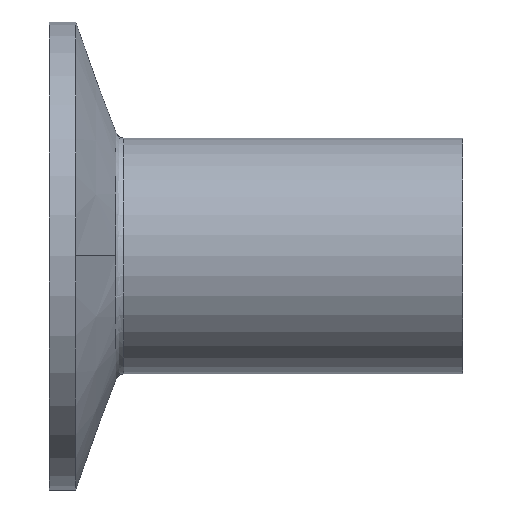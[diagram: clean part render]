
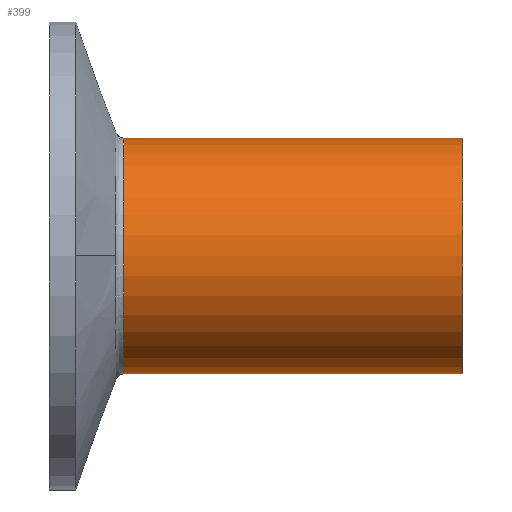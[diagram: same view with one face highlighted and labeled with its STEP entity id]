
A CAD part, top view. The second image highlights one B-rep face of the part: STEP entity #399.
In plain terms, the highlighted cylindrical face has radius 12.7 mm (diameter 25.4 mm), a partial arc.
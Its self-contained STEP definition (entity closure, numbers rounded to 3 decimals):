
#28 = CYLINDRICAL_SURFACE ( 'NONE', #141, 12.7 ) ;
#53 = DIRECTION ( 'NONE',  ( 1., 0., 0. ) ) ;
#67 = FACE_OUTER_BOUND ( 'NONE', #153, .T. ) ;
#141 = AXIS2_PLACEMENT_3D ( 'NONE', #175, #53, #946 ) ;
#153 = EDGE_LOOP ( 'NONE', ( #212, #306, #993, #528 ) ) ;
#164 = EDGE_CURVE ( 'NONE', #1210, #372, #1086, .T. ) ;
#165 = DIRECTION ( 'NONE',  ( 1., 0., 0. ) ) ;
#172 = VECTOR ( 'NONE', #329, 1000. ) ;
#175 = CARTESIAN_POINT ( 'NONE',  ( 45.786, 0., 0. ) ) ;
#182 = CIRCLE ( 'NONE', #473, 12.7 ) ;
#212 = ORIENTED_EDGE ( 'NONE', *, *, #1048, .T. ) ;
#306 = ORIENTED_EDGE ( 'NONE', *, *, #164, .T. ) ;
#315 = CIRCLE ( 'NONE', #1074, 12.7 ) ;
#329 = DIRECTION ( 'NONE',  ( 1., 0., 0. ) ) ;
#370 = EDGE_CURVE ( 'NONE', #389, #372, #315, .T. ) ;
#372 = VERTEX_POINT ( 'NONE', #884 ) ;
#389 = VERTEX_POINT ( 'NONE', #1058 ) ;
#399 = ADVANCED_FACE ( 'NONE', ( #67 ), #28, .T. ) ;
#463 = VECTOR ( 'NONE', #1298, 1000. ) ;
#473 = AXIS2_PLACEMENT_3D ( 'NONE', #802, #165, #938 ) ;
#482 = LINE ( 'NONE', #1370, #172 ) ;
#528 = ORIENTED_EDGE ( 'NONE', *, *, #690, .F. ) ;
#532 = DIRECTION ( 'NONE',  ( 1., 0., 0. ) ) ;
#690 = EDGE_CURVE ( 'NONE', #809, #389, #482, .T. ) ;
#766 = CARTESIAN_POINT ( 'NONE',  ( 45.786, -12.7, 0. ) ) ;
#802 = CARTESIAN_POINT ( 'NONE',  ( -36.466, 0., 0. ) ) ;
#809 = VERTEX_POINT ( 'NONE', #941 ) ;
#884 = CARTESIAN_POINT ( 'NONE',  ( 0., -12.7, 0. ) ) ;
#920 = DIRECTION ( 'NONE',  ( 0., 1., 0. ) ) ;
#938 = DIRECTION ( 'NONE',  ( 0., 1., 0. ) ) ;
#941 = CARTESIAN_POINT ( 'NONE',  ( -36.466, 12.7, 0. ) ) ;
#946 = DIRECTION ( 'NONE',  ( 0., 1., 0. ) ) ;
#993 = ORIENTED_EDGE ( 'NONE', *, *, #370, .F. ) ;
#1048 = EDGE_CURVE ( 'NONE', #809, #1210, #182, .T. ) ;
#1058 = CARTESIAN_POINT ( 'NONE',  ( 0., 12.7, 0. ) ) ;
#1074 = AXIS2_PLACEMENT_3D ( 'NONE', #1354, #532, #920 ) ;
#1086 = LINE ( 'NONE', #766, #463 ) ;
#1196 = CARTESIAN_POINT ( 'NONE',  ( -36.466, -12.7, 0. ) ) ;
#1210 = VERTEX_POINT ( 'NONE', #1196 ) ;
#1298 = DIRECTION ( 'NONE',  ( 1., 0., 0. ) ) ;
#1354 = CARTESIAN_POINT ( 'NONE',  ( 0., 0., 0. ) ) ;
#1370 = CARTESIAN_POINT ( 'NONE',  ( 45.786, 12.7, 0. ) ) ;
